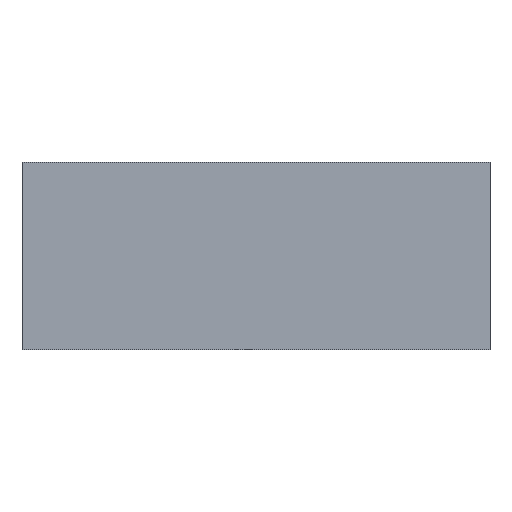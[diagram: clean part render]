
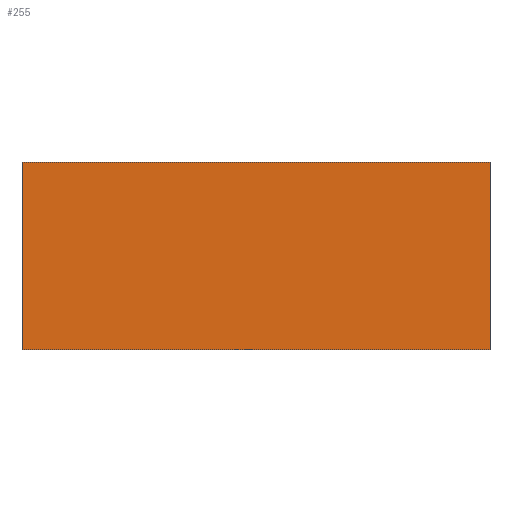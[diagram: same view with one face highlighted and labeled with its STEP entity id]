
A CAD part, front view. The second image highlights one B-rep face of the part: STEP entity #255.
In plain terms, the highlighted planar face has unit normal (0, -1, 0).
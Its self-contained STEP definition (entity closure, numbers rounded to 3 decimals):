
#39 = EDGE_CURVE('',#40,#42,#44,.T.);
#40 = VERTEX_POINT('',#41);
#41 = CARTESIAN_POINT('',(-28.5,-30.,6.8));
#42 = VERTEX_POINT('',#43);
#43 = CARTESIAN_POINT('',(-28.5,-30.,7.2));
#44 = SURFACE_CURVE('',#45,(#49,#61),.PCURVE_S1.);
#45 = LINE('',#46,#47);
#46 = CARTESIAN_POINT('',(-28.5,-30.,6.8));
#47 = VECTOR('',#48,1.);
#48 = DIRECTION('',(0.,0.,1.));
#49 = PCURVE('',#50,#55);
#50 = PLANE('',#51);
#51 = AXIS2_PLACEMENT_3D('',#52,#53,#54);
#52 = CARTESIAN_POINT('',(-28.5,-30.,6.8));
#53 = DIRECTION('',(1.,0.,0.));
#54 = DIRECTION('',(0.,0.,1.));
#55 = DEFINITIONAL_REPRESENTATION('',(#56),#60);
#56 = LINE('',#57,#58);
#57 = CARTESIAN_POINT('',(0.,0.));
#58 = VECTOR('',#59,1.);
#59 = DIRECTION('',(1.,0.));
#60 = ( GEOMETRIC_REPRESENTATION_CONTEXT(2) 
PARAMETRIC_REPRESENTATION_CONTEXT() REPRESENTATION_CONTEXT('2D SPACE',''
  ) );
#61 = PCURVE('',#62,#67);
#62 = PLANE('',#63);
#63 = AXIS2_PLACEMENT_3D('',#64,#65,#66);
#64 = CARTESIAN_POINT('',(-28.5,-30.,6.8));
#65 = DIRECTION('',(0.,1.,0.));
#66 = DIRECTION('',(0.,0.,1.));
#67 = DEFINITIONAL_REPRESENTATION('',(#68),#72);
#68 = LINE('',#69,#70);
#69 = CARTESIAN_POINT('',(0.,0.));
#70 = VECTOR('',#71,1.);
#71 = DIRECTION('',(1.,0.));
#72 = ( GEOMETRIC_REPRESENTATION_CONTEXT(2) 
PARAMETRIC_REPRESENTATION_CONTEXT() REPRESENTATION_CONTEXT('2D SPACE',''
  ) );
#90 = PLANE('',#91);
#91 = AXIS2_PLACEMENT_3D('',#92,#93,#94);
#92 = CARTESIAN_POINT('',(-28.5,-30.,6.8));
#93 = DIRECTION('',(0.,0.,1.));
#94 = DIRECTION('',(1.,0.,0.));
#144 = PLANE('',#145);
#145 = AXIS2_PLACEMENT_3D('',#146,#147,#148);
#146 = CARTESIAN_POINT('',(-28.5,-30.,7.2));
#147 = DIRECTION('',(0.,0.,1.));
#148 = DIRECTION('',(1.,0.,0.));
#159 = EDGE_CURVE('',#160,#162,#164,.T.);
#160 = VERTEX_POINT('',#161);
#161 = CARTESIAN_POINT('',(-27.5,-30.,6.8));
#162 = VERTEX_POINT('',#163);
#163 = CARTESIAN_POINT('',(-27.5,-30.,7.2));
#164 = SURFACE_CURVE('',#165,(#169,#181),.PCURVE_S1.);
#165 = LINE('',#166,#167);
#166 = CARTESIAN_POINT('',(-27.5,-30.,6.8));
#167 = VECTOR('',#168,1.);
#168 = DIRECTION('',(0.,0.,1.));
#169 = PCURVE('',#170,#175);
#170 = PLANE('',#171);
#171 = AXIS2_PLACEMENT_3D('',#172,#173,#174);
#172 = CARTESIAN_POINT('',(-27.5,-30.,6.8));
#173 = DIRECTION('',(1.,0.,0.));
#174 = DIRECTION('',(0.,0.,1.));
#175 = DEFINITIONAL_REPRESENTATION('',(#176),#180);
#176 = LINE('',#177,#178);
#177 = CARTESIAN_POINT('',(0.,0.));
#178 = VECTOR('',#179,1.);
#179 = DIRECTION('',(1.,0.));
#180 = ( GEOMETRIC_REPRESENTATION_CONTEXT(2) 
PARAMETRIC_REPRESENTATION_CONTEXT() REPRESENTATION_CONTEXT('2D SPACE',''
  ) );
#181 = PCURVE('',#62,#182);
#182 = DEFINITIONAL_REPRESENTATION('',(#183),#187);
#183 = LINE('',#184,#185);
#184 = CARTESIAN_POINT('',(0.,1.));
#185 = VECTOR('',#186,1.);
#186 = DIRECTION('',(1.,0.));
#187 = ( GEOMETRIC_REPRESENTATION_CONTEXT(2) 
PARAMETRIC_REPRESENTATION_CONTEXT() REPRESENTATION_CONTEXT('2D SPACE',''
  ) );
#255 = ADVANCED_FACE('',(#256),#62,.F.);
#256 = FACE_BOUND('',#257,.F.);
#257 = EDGE_LOOP('',(#258,#279,#280,#301));
#258 = ORIENTED_EDGE('',*,*,#259,.F.);
#259 = EDGE_CURVE('',#40,#160,#260,.T.);
#260 = SURFACE_CURVE('',#261,(#265,#272),.PCURVE_S1.);
#261 = LINE('',#262,#263);
#262 = CARTESIAN_POINT('',(-28.5,-30.,6.8));
#263 = VECTOR('',#264,1.);
#264 = DIRECTION('',(1.,0.,0.));
#265 = PCURVE('',#62,#266);
#266 = DEFINITIONAL_REPRESENTATION('',(#267),#271);
#267 = LINE('',#268,#269);
#268 = CARTESIAN_POINT('',(0.,0.));
#269 = VECTOR('',#270,1.);
#270 = DIRECTION('',(0.,1.));
#271 = ( GEOMETRIC_REPRESENTATION_CONTEXT(2) 
PARAMETRIC_REPRESENTATION_CONTEXT() REPRESENTATION_CONTEXT('2D SPACE',''
  ) );
#272 = PCURVE('',#90,#273);
#273 = DEFINITIONAL_REPRESENTATION('',(#274),#278);
#274 = LINE('',#275,#276);
#275 = CARTESIAN_POINT('',(0.,0.));
#276 = VECTOR('',#277,1.);
#277 = DIRECTION('',(1.,0.));
#278 = ( GEOMETRIC_REPRESENTATION_CONTEXT(2) 
PARAMETRIC_REPRESENTATION_CONTEXT() REPRESENTATION_CONTEXT('2D SPACE',''
  ) );
#279 = ORIENTED_EDGE('',*,*,#39,.T.);
#280 = ORIENTED_EDGE('',*,*,#281,.T.);
#281 = EDGE_CURVE('',#42,#162,#282,.T.);
#282 = SURFACE_CURVE('',#283,(#287,#294),.PCURVE_S1.);
#283 = LINE('',#284,#285);
#284 = CARTESIAN_POINT('',(-28.5,-30.,7.2));
#285 = VECTOR('',#286,1.);
#286 = DIRECTION('',(1.,0.,0.));
#287 = PCURVE('',#62,#288);
#288 = DEFINITIONAL_REPRESENTATION('',(#289),#293);
#289 = LINE('',#290,#291);
#290 = CARTESIAN_POINT('',(0.4,0.));
#291 = VECTOR('',#292,1.);
#292 = DIRECTION('',(0.,1.));
#293 = ( GEOMETRIC_REPRESENTATION_CONTEXT(2) 
PARAMETRIC_REPRESENTATION_CONTEXT() REPRESENTATION_CONTEXT('2D SPACE',''
  ) );
#294 = PCURVE('',#144,#295);
#295 = DEFINITIONAL_REPRESENTATION('',(#296),#300);
#296 = LINE('',#297,#298);
#297 = CARTESIAN_POINT('',(0.,0.));
#298 = VECTOR('',#299,1.);
#299 = DIRECTION('',(1.,0.));
#300 = ( GEOMETRIC_REPRESENTATION_CONTEXT(2) 
PARAMETRIC_REPRESENTATION_CONTEXT() REPRESENTATION_CONTEXT('2D SPACE',''
  ) );
#301 = ORIENTED_EDGE('',*,*,#159,.F.);
